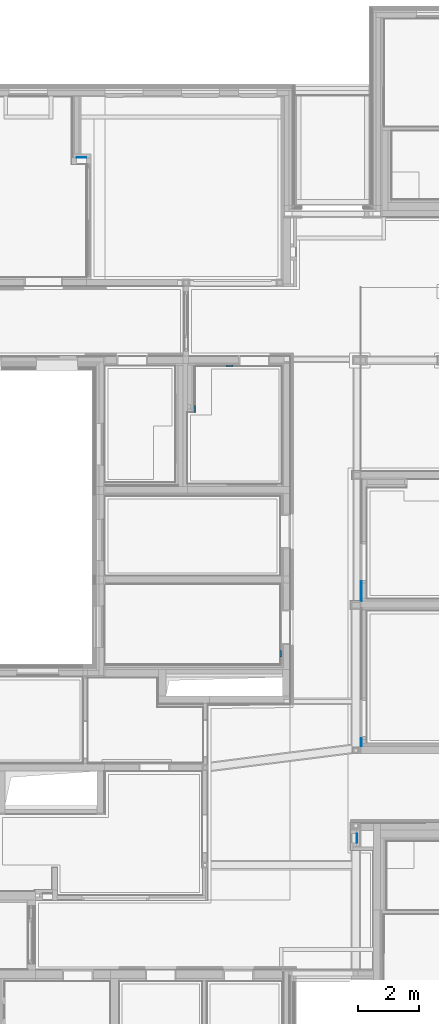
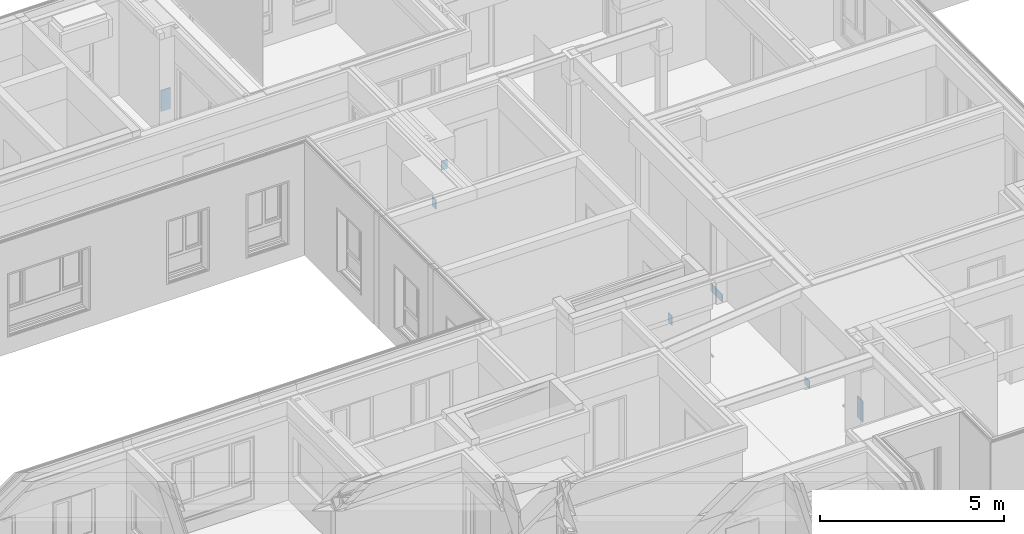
# One storey, part 151 of 222: 7 walls.
"""IFC4 building model written with IfcOpenShell, lengths in metres."""

from ifc_helpers import new_model, entity, si_unit, converted_unit, derived_unit, frame, origin, place, context, subcontext, project, spatial, faceted_brep, element, save


model = new_model("IFC4")

# Units and contexts
model_context = context("Model", 3, precision=1e-05, world=origin())
body_context = subcontext(model_context, "Body", "Model", "MODEL_VIEW")
ifc_project = project(units=[si_unit("LENGTHUNIT", "METRE"), si_unit("AREAUNIT", "SQUARE_METRE"), si_unit("VOLUMEUNIT", "CUBIC_METRE"), si_unit("MASSUNIT", "GRAM", prefix="KILO"), converted_unit("PLANEANGLEUNIT", "DEGREE", entity("IfcPlaneAngleMeasure", 0.0174532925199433), si_unit("PLANEANGLEUNIT", "RADIAN"), dimensions=[0, 0, 0, 0, 0, 0, 0]), derived_unit("THERMALTRANSMITTANCEUNIT", [(si_unit("POWERUNIT", "WATT"), 1), (si_unit("THERMODYNAMICTEMPERATUREUNIT", "KELVIN"), -1), (si_unit("LENGTHUNIT", "METRE"), -2)]), derived_unit("VOLUMETRICFLOWRATEUNIT", [(si_unit("LENGTHUNIT", "METRE"), 3), (converted_unit("TIMEUNIT", "hour", entity("IfcTimeMeasure", 3600.0), si_unit("TIMEUNIT", "SECOND"), dimensions=[0, 0, 1, 0, 0, 0, 0]), -1), (si_unit("LENGTHUNIT", "METRE"), -1)])], contexts=[model_context])

# Site, building, storey
site_placement = place(None, origin())
site = spatial("IfcSite", under=ifc_project, at=site_placement, Name="Psychiatrie Neubau Wunstorf", CompositionType="ELEMENT")
building_placement = place(site_placement, origin())
building = spatial("IfcBuilding", under=site, at=building_placement, Name="Neubau H2 Stationsgebäude", CompositionType="ELEMENT")
storey_placement = place(building_placement, frame((0.0, 0.0, 3.6)))
storey = spatial("IfcBuildingStorey", under=building, at=storey_placement, Name="H2 Ebene +1", CompositionType="ELEMENT", Elevation=3.6)

# Walls
wall_1_placement = place(storey_placement, frame((67.7955, 10.7585717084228, 1.21)))
element("IfcWall", 1, at=wall_1_placement, inside=storey, Name="WV 1.1", context=body_context, shape_type="Brep", body=[
    faceted_brep([(0.0, 0.0, 0.0), (0.025, 0.0, 0.0), (0.025, 0.2, 0.0), (0.0, 0.2, 0.0), (0.025, 0.0, 0.3), (0.0, 0.0, 0.3), (0.0, 0.2, 0.3), (0.025, 0.2, 0.3)], [[[0, 1, 2, 3]], [[4, 5, 6, 7]], [[1, 0, 5, 4]], [[2, 1, 4, 7]], [[3, 2, 7, 6]], [[0, 3, 6, 5]]], orient=[[False], [False], [False], [False], [False], [False]]),
])
wall_2_placement = place(storey_placement, frame((70.285490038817, 4.68500000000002, 0.8)))
element("IfcWall", 2, at=wall_2_placement, inside=storey, Name="WV 1.1", context=body_context, shape_type="Brep", body=[
    faceted_brep([(0.025, 0.3, 0.0), (0.0, 0.3, 0.0), (0.0, 0.0, 0.0), (0.025, 0.0, 0.0), (0.0, 0.3, 0.7), (0.025, 0.3, 0.7), (0.025, 0.0, 0.7), (0.0, 0.0, 0.7)], [[[0, 1, 2, 3]], [[4, 5, 6, 7]], [[1, 0, 5, 4]], [[2, 1, 4, 7]], [[3, 2, 7, 6]], [[0, 3, 6, 5]]], orient=[[False], [False], [False], [False], [False], [False]]),
])
wall_3_placement = place(storey_placement, frame((61.1515, 27.0639996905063, 0.75)))
element("IfcWall", 3, at=wall_3_placement, inside=storey, Name="WV 1.1", context=body_context, shape_type="Brep", body=[
    faceted_brep([(0.3, 0.0, 0.0), (0.3, 0.025, 0.0), (0.0, 0.025, 0.0), (0.0, 0.0, 0.0), (0.3, 0.025, 0.7), (0.3, 0.0, 0.7), (0.0, 0.0, 0.7), (0.0, 0.025, 0.7)], [[[0, 1, 2, 3]], [[4, 5, 6, 7]], [[1, 0, 5, 4]], [[2, 1, 4, 7]], [[3, 2, 7, 6]], [[0, 3, 6, 5]]], orient=[[False], [False], [False], [False], [False], [False]]),
])
wall_4_placement = place(storey_placement, frame((70.43, 12.585, -0.05)))
element("IfcWall", 4, at=wall_4_placement, inside=storey, Name="WV 1.1", context=body_context, shape_type="Brep", body=[
    faceted_brep([(0.0, 0.0, 0.0), (0.025, 0.0, 0.0), (0.025, 0.64, 0.0), (0.0, 0.64, 0.0), (0.025, 0.0, 0.25), (0.0, 0.0, 0.25), (0.0, 0.64, 0.25), (0.025, 0.64, 0.25)], [[[0, 1, 2, 3]], [[4, 5, 6, 7]], [[1, 0, 5, 4]], [[2, 1, 4, 7]], [[3, 2, 7, 6]], [[0, 3, 6, 5]]], orient=[[False], [False], [False], [False], [False], [False]]),
])
wall_5_placement = place(storey_placement, frame((70.4300000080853, 7.8395, -0.05)))
element("IfcWall", 5, at=wall_5_placement, inside=storey, Name="WV 1.1", context=body_context, shape_type="Brep", body=[
    faceted_brep([(0.0, 0.0, 0.0), (0.025, 0.0, 0.0), (0.025, 0.27, 0.0), (0.0, 0.27, 0.0), (0.025, 0.0, 0.25), (0.0, 0.0, 0.25), (0.0, 0.27, 0.25), (0.025, 0.27, 0.25)], [[[0, 1, 2, 3]], [[4, 5, 6, 7]], [[1, 0, 5, 4]], [[2, 1, 4, 7]], [[3, 2, 7, 6]], [[0, 3, 6, 5]]], orient=[[False], [False], [False], [False], [False], [False]]),
])
wall_6_placement = place(storey_placement, frame((64.985, 18.7609960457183, 1.21)))
element("IfcWall", 6, at=wall_6_placement, inside=storey, Name="WV 1.1", context=body_context, shape_type="Brep", body=[
    faceted_brep([(0.0, 0.0, 0.0), (0.025, 0.0, 0.0), (0.025, 0.2, 0.0), (0.0, 0.2, 0.0), (0.025, 0.0, 0.3), (0.0, 0.0, 0.3), (0.0, 0.2, 0.3), (0.025, 0.2, 0.3)], [[[0, 1, 2, 3]], [[4, 5, 6, 7]], [[1, 0, 5, 4]], [[2, 1, 4, 7]], [[3, 2, 7, 6]], [[0, 3, 6, 5]]], orient=[[False], [False], [False], [False], [False], [False]]),
])
wall_7_placement = place(storey_placement, frame((66.0354999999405, 20.2639981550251, 1.21)))
element("IfcWall", 7, at=wall_7_placement, inside=storey, Name="WV 1.1", context=body_context, shape_type="Brep", body=[
    faceted_brep([(0.2, 0.0, 0.0), (0.2, 0.025, 0.0), (0.0, 0.025, 0.0), (0.0, 0.0, 0.0), (0.2, 0.025, 0.3), (0.2, 0.0, 0.3), (0.0, 0.0, 0.3), (0.0, 0.025, 0.3)], [[[0, 1, 2, 3]], [[4, 5, 6, 7]], [[1, 0, 5, 4]], [[2, 1, 4, 7]], [[3, 2, 7, 6]], [[0, 3, 6, 5]]], orient=[[False], [False], [False], [False], [False], [False]]),
])

save(model, "model.ifc")
